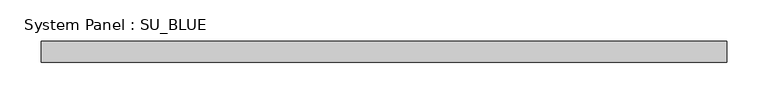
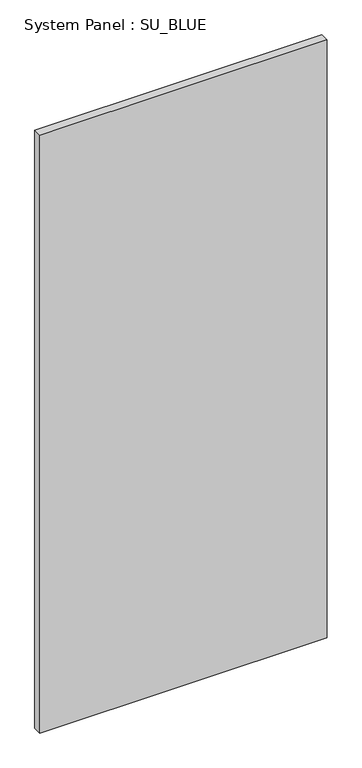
"""IFC4 building model written with IfcOpenShell, lengths in millimetres: plate geometry, System Panel : SU_BLUE."""

from ifc_helpers import new_model, si_unit, origin, origin_with_axes, place, context, project, spatial, polyline, outline, extrude, source, transform, mapped, element, save


def system_panel_su_blue_f02faf6b(model_context):
    return source(origin(), model_context, "Body", "SweptSolid", [
        extrude(outline(polyline([(415.3596078, 19.05), (-415.3596078, 19.05), (-415.3596078, 44.45), (415.3596078, 44.45), (415.3596078, 19.05)])), origin_with_axes(), (0.0, 0.0, 1.0), 1828.8),
    ])


if __name__ == "__main__":
    model = new_model("IFC4")
    model_context = context("Model", 3, world=origin())
    ifc_project = project(units=[si_unit("LENGTHUNIT", "METRE", prefix="MILLI")], contexts=[model_context])
    site = spatial("IfcSite", under=ifc_project)
    building = spatial("IfcBuilding", under=site)
    placement = place(None, origin())
    system_panel_su_blue_shape = system_panel_su_blue_f02faf6b(model_context)
    element("IfcPlate", 1, ObjectType="System Panel : SU_BLUE", at=placement, inside=building, context=model_context, shape_type="MappedRepresentation", body=[
        mapped(system_panel_su_blue_shape, transform((0.0, 0.0, 0.0), x_axis=(1.0, 0.0, 0.0), y_axis=(0.0, 1.0, 0.0), z_axis=(0.0, 0.0, 1.0))),
    ])
    save(model, "model.ifc")
